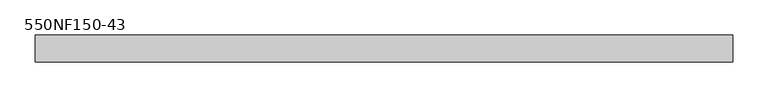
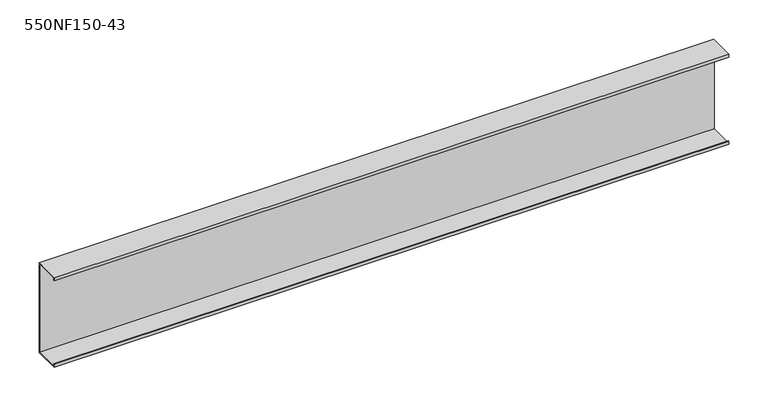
"""IFC4 building model written with IfcOpenShell, lengths in millimetres: beam geometry, BIMSF-SSMA-S : 550NF150-43."""

from ifc_helpers import new_model, si_unit, frame, origin, place, context, project, spatial, polyline, outline, extrude, source, transform, mapped, element, save


def beam_550nf150_43_f91dca98(model_context):
    return source(origin(), model_context, "Body", "SweptSolid", [
        extrude(outline(polyline([(19.05, 69.85), (19.05, -69.85), (-19.05, -69.85), (-19.05, -65.0748), (-17.9003158, -65.0748), (-17.9003158, -68.7003158), (17.9003158, -68.7003158), (17.9003158, 68.7003158), (-17.9003158, 68.7003158), (-17.9003158, 65.0748), (-19.05, 65.0748), (-19.05, 69.85), (19.05, 69.85)])), frame((-495.3, 0.0, 0.0), z_axis=(1.0, 0.0, 0.0), x_axis=(0.0, 1.0, 0.0)), (0.0, 0.0, 1.0), 990.6),
    ])


if __name__ == "__main__":
    model = new_model("IFC4")
    model_context = context("Model", 3, world=origin())
    ifc_project = project(units=[si_unit("LENGTHUNIT", "METRE", prefix="MILLI")], contexts=[model_context])
    site = spatial("IfcSite", under=ifc_project)
    building = spatial("IfcBuilding", under=site)
    placement = place(None, origin())
    beam_550nf150_43_shape = beam_550nf150_43_f91dca98(model_context)
    element("IfcBeam", 1, ObjectType="BIMSF-SSMA-S : 550NF150-43", at=placement, inside=building, context=model_context, shape_type="MappedRepresentation", body=[
        mapped(beam_550nf150_43_shape, transform((0.0, 0.0, 0.0), x_axis=(1.0, 0.0, 0.0), y_axis=(0.0, 1.0, 0.0), z_axis=(0.0, 0.0, 1.0))),
    ])
    save(model, "model.ifc")
